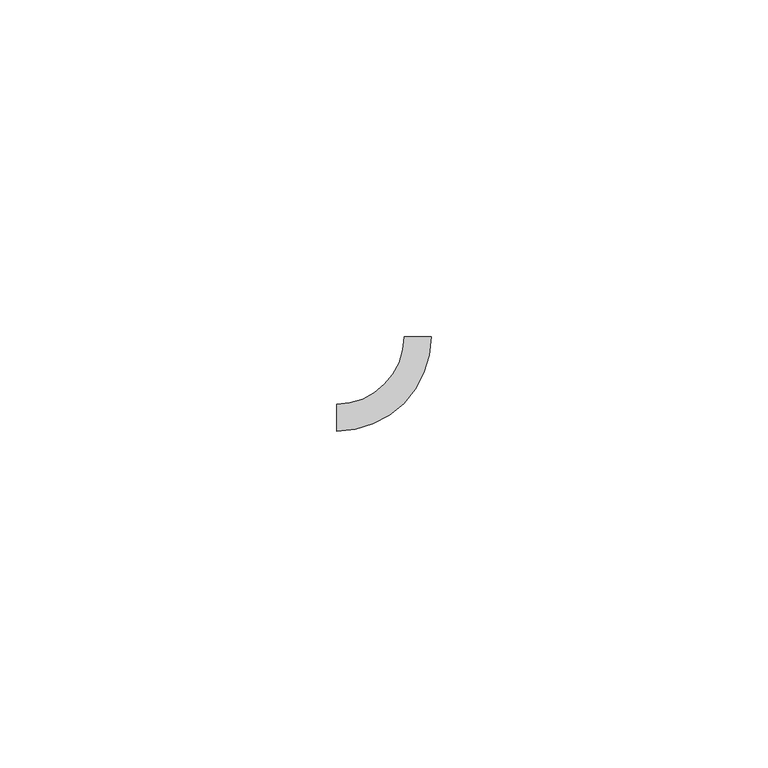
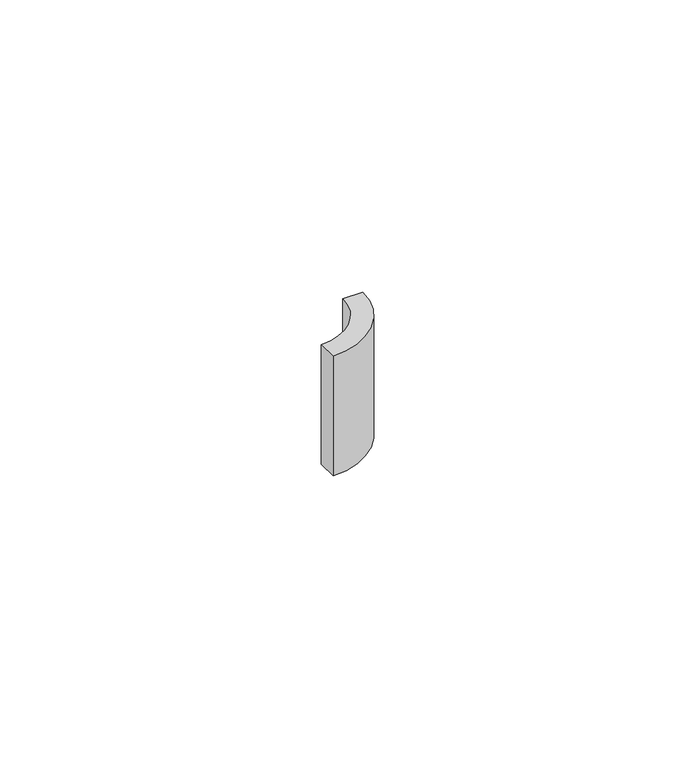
"""IFC4 building model written with IfcOpenShell, lengths in millimetres: duct fitting geometry, КНС_Поворот_Полоса_Неспецифицируемое_DKC : Изгиб полосы."""

from ifc_helpers import new_model, si_unit, point, frame, frame_2d, origin, place, context, project, spatial, polyline, circle_curve, trimmed, segment, composite_curve, outline, extrude, source, transform, mapped, element, save


def duct_fitting_d2fdc9aa(model_context):
    return source(origin(), model_context, "Body", "SweptSolid", [
        extrude(outline(composite_curve([segment(trimmed(circle_curve(frame_2d((-12.0, 12.0)), 14.0), [point((2.0, 12.0))], [point((-12.0, -2.0))], False, "CARTESIAN"), True, "CONTINUOUS"), segment(polyline([(-12.0, -2.0), (-12.0, 2.0)]), True, "CONTINUOUS"), segment(trimmed(circle_curve(frame_2d((-12.0, 12.0)), 10.0), [point((-12.0, 2.0))], [point((-2.0, 12.0))], True, "CARTESIAN"), True, "CONTINUOUS"), segment(polyline([(-2.0, 12.0), (2.0, 12.0)]), True, "CONTINUOUS")], self_intersect=False)), frame((0.0, 0.0, -12.5), z_axis=(0.0, 0.0, 1.0), x_axis=(1.0, 0.0, 0.0)), (0.0, 0.0, 1.0), 25.0),
    ])


if __name__ == "__main__":
    model = new_model("IFC4")
    model_context = context("Model", 3, world=origin())
    ifc_project = project(units=[si_unit("LENGTHUNIT", "METRE", prefix="MILLI")], contexts=[model_context])
    site = spatial("IfcSite", under=ifc_project)
    building = spatial("IfcBuilding", under=site)
    placement = place(None, origin())
    duct_fitting_shape = duct_fitting_d2fdc9aa(model_context)
    element("IfcDuctFitting", 1, ObjectType="КНС_Поворот_Полоса_Неспецифицируемое_DKC : Изгиб полосы", at=placement, inside=building, context=model_context, shape_type="MappedRepresentation", body=[
        mapped(duct_fitting_shape, transform((0.0, 0.0, 0.0), x_axis=(1.0, 0.0, 0.0), y_axis=(0.0, 1.0, 0.0), z_axis=(0.0, 0.0, 1.0))),
    ])
    save(model, "model.ifc")
